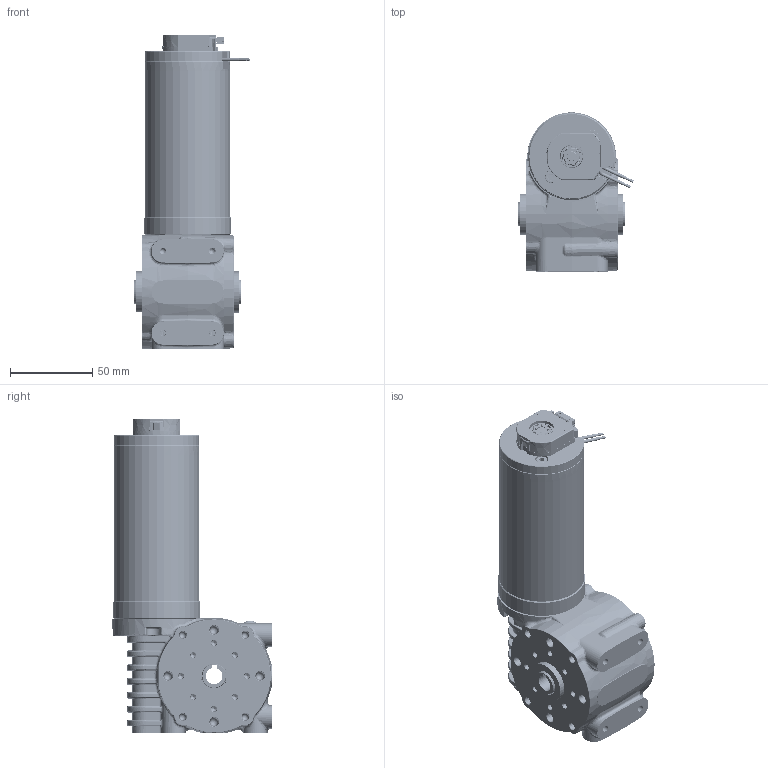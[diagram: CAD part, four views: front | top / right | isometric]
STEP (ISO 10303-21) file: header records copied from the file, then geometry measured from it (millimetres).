
FILE_DESCRIPTION (( 'STEP AP214' ), '1' );
FILE_NAME ('BRx52-30-GB80 - Diff Encoder.STEP', '2025-05-02T11:04:44', ( '' ), ( '' ), 'SwSTEP 2.0', 'SolidWorks 2023', '' );
FILE_SCHEMA (( 'AUTOMOTIVE_DESIGN' ));
Length unit declared in the file: millimetre
Products named in the file (1): BRx52-30-GB80 - Diff Encoder
Bounding box: 70.33 x 96.92 x 191.8 mm (x, y, z)
Volume: 301761.1 mm3; surface area: 155630.5 mm2
Topology: 37 solids, 37 shells, 9178 faces, 24313 edges, 15809 vertices
Faces by surface type: plane 5171, cylinder 2693, cone 505, bspline 407, torus 388, sphere 14
Entity records: 410665 total; most frequent: CARTESIAN_POINT 80941, ORIENTED_EDGE 48440, DIRECTION 46543, EDGE_CURVE 24220, VECTOR 15821, LINE 15821, VERTEX_POINT 15809, AXIS2_PLACEMENT_3D 15361
